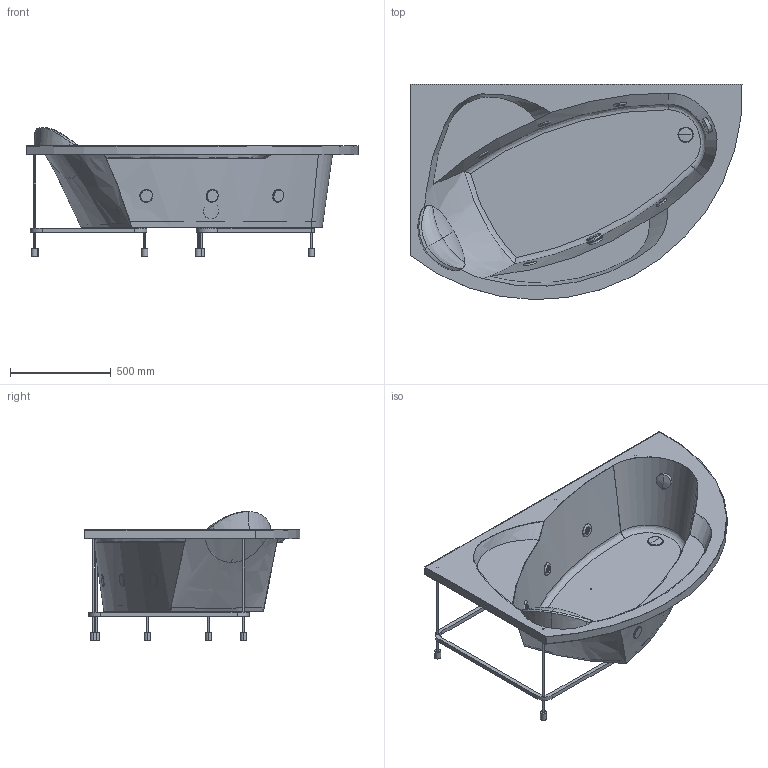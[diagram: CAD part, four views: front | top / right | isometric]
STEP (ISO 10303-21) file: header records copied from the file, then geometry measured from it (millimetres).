
FILE_DESCRIPTION(('STEP AP203'),'2;1');
FILE_NAME('VOG 5 16585 O S.stp','2015-07-24T16:36:22',(''),(''),'2014.1.117','THINKDESIGN','');
FILE_SCHEMA(('CONFIG_CONTROL_DESIGN'));
Bounding box: 1650 x 1069.88 x 640.5 mm (x, y, z)
Volume: 14244147.7 mm3; surface area: 6359579.5 mm2
Topology: 13 solids, 13 shells, 344 faces, 741 edges, 437 vertices
Faces by surface type: bspline 152, plane 96, cylinder 96
Entity records: 39702 total; most frequent: CARTESIAN_POINT 32761, ORIENTED_EDGE 1414, DIRECTION 1391, EDGE_CURVE 707, AXIS2_PLACEMENT_3D 590, VERTEX_POINT 437, CIRCLE 398, EDGE_LOOP 396
